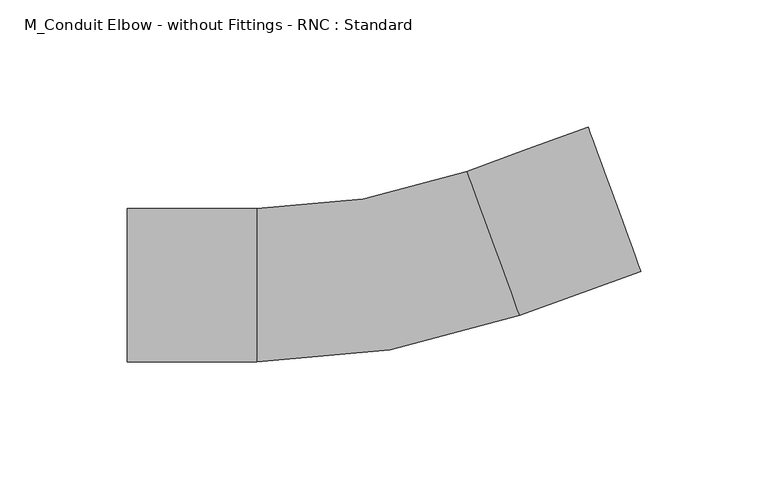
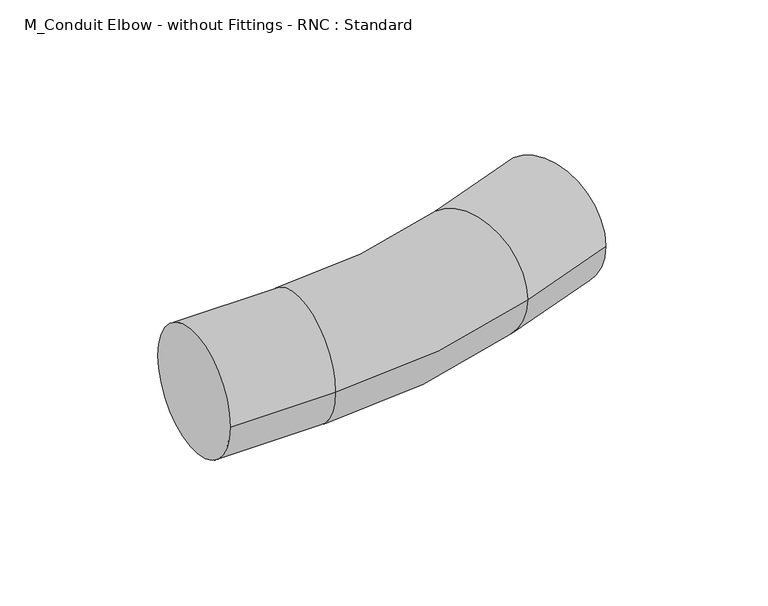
"""IFC4 building model written with IfcOpenShell, lengths in millimetres: cable carrier fitting geometry, M_Conduit Elbow - without Fittings - RNC : Standard."""

from ifc_helpers import new_model, si_unit, point, frame, origin, place, context, project, spatial, circle_curve, ellipse_curve, trimmed, source, transform, mapped, element, save
from ifc_brep_helpers import plane_surface, cylinder_surface, revolved_surface, advanced_brep


def m_conduit_elbow_without_fittings_rnc_standard_5fbefaed(model_context):
    return source(origin(), model_context, "Body", "AdvancedBrep", [
        advanced_brep(
        [(-98.6657222, -30.1625, 0.0), (-98.6657222, 30.1625, 0.0), (-47.8657222, -30.1625, 0.0), (-47.8657222, 30.1625, 0.0), (34.6628834, 44.7145198, 0.0), (55.2952485, -11.9724375, 0.0), (103.0316336, 5.4021858, 0.0), (82.3992685, 62.0891431, 0.0)],
        [
            (0, 1, circle_curve(frame((-98.6657222, 0.0, 0.0), z_axis=(-1.0, 0.0, 0.0), x_axis=(0.0, 1.0, 0.0)), 30.1625)),
            (1, 0, circle_curve(frame((-98.6657222, 0.0, 0.0), z_axis=(-1.0, 0.0, 0.0), x_axis=(0.0, 1.0, 0.0)), 30.1625)),
            (0, 2),
            (2, 3, circle_curve(frame((-47.8657222, 0.0, 0.0), z_axis=(-1.0, 0.0, 0.0), x_axis=(0.0, 1.0, 0.0)), 30.1625)),
            (3, 1),
            (3, 2, circle_curve(frame((-47.8657222, 0.0, 0.0), z_axis=(-1.0, 0.0, 0.0), x_axis=(0.0, 1.0, 0.0)), 30.1625)),
            (4, 3, circle_curve(frame((-47.8657222, 271.46, 0.0), z_axis=(0.0, 0.0, -1.0), x_axis=(0.0, -1.0, 0.0)), 241.2975)),
            (2, 5, circle_curve(frame((-47.8657222, 271.46, 0.0), z_axis=(0.0, 0.0, 1.0), x_axis=(0.0, -1.0, 0.0)), 301.6225)),
            (5, 4, circle_curve(frame((44.9790659, 16.3710412, 0.0), z_axis=(-0.9396926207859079, -0.3420201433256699, 0.0), x_axis=(-0.3420201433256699, 0.9396926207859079, 0.0)), 30.1625)),
            (4, 5, circle_curve(frame((44.9790659, 16.3710412, 0.0), z_axis=(-0.9396926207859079, -0.3420201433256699, 0.0), x_axis=(-0.3420201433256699, 0.9396926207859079, 0.0)), 30.1625)),
            (6, 7, circle_curve(frame((92.7154511, 33.7456644, 0.0), z_axis=(0.939692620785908, 0.34202014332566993, 0.0), x_axis=(-0.34202014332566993, 0.939692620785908, 0.0)), 30.1625)),
            (7, 6, circle_curve(frame((92.7154511, 33.7456644, 0.0), z_axis=(0.939692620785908, 0.34202014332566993, 0.0), x_axis=(-0.34202014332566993, 0.939692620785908, 0.0)), 30.1625)),
            (5, 6),
            (7, 4),
        ],
        [
            plane_surface(frame((-98.6657222, 0.0, 0.0), z_axis=(-1.0, 0.0, 0.0), x_axis=(0.0, 0.0, 1.0))),
            cylinder_surface(frame((-98.6657222, 0.0, 0.0), z_axis=(-1.0, 0.0, 0.0), x_axis=(0.0, 1.0, 0.0)), 30.1625),
            revolved_surface(trimmed(ellipse_curve(frame((-47.8657222, 0.0, 0.0), z_axis=(-1.0, 0.0, 0.0), x_axis=(0.0, 1.0, 0.0)), 30.1625, 30.1625), [point((-47.8657222, -30.1625, 0.0))], [point((-47.8657222, 30.1625, 0.0))], True, "CARTESIAN"), (-47.8657222, 271.46, 0.0), (0.0, 0.0, 1.0)),
            revolved_surface(trimmed(ellipse_curve(frame((-47.8657222, 0.0, 0.0), z_axis=(-1.0, 0.0, 0.0), x_axis=(0.0, 1.0, 0.0)), 30.1625, 30.1625), [point((-47.8657222, 30.1625, 0.0))], [point((-47.8657222, -30.1625, 0.0))], True, "CARTESIAN"), (-47.8657222, 271.46, 0.0), (0.0, 0.0, 1.0)),
            plane_surface(frame((92.7154511, 33.7456644, 0.0), z_axis=(0.939692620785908, 0.34202014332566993, 0.0), x_axis=(0.0, 0.0, 1.0))),
            cylinder_surface(frame((44.9790659, 16.3710412, 0.0), z_axis=(-0.939692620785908, -0.34202014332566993, 0.0), x_axis=(-0.34202014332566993, 0.939692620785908, 0.0)), 30.1625),
        ],
        [
            (0, [[1, 2]]),
            (1, [[-1, 3, 4, 5]]),
            (1, [[-2, -5, 6, -3]]),
            (2, [[7, -4, 8, 9]]),
            (3, [[-8, -6, -7, 10]]),
            (4, [[11, 12]]),
            (5, [[-9, 13, -12, 14]]),
            (5, [[-10, -14, -11, -13]]),
        ],
    ),
    ])


if __name__ == "__main__":
    model = new_model("IFC4")
    model_context = context("Model", 3, world=origin())
    ifc_project = project(units=[si_unit("LENGTHUNIT", "METRE", prefix="MILLI")], contexts=[model_context])
    site = spatial("IfcSite", under=ifc_project)
    building = spatial("IfcBuilding", under=site)
    placement = place(None, origin())
    m_conduit_elbow_without_fittings_rnc_standard_shape = m_conduit_elbow_without_fittings_rnc_standard_5fbefaed(model_context)
    element("IfcCableCarrierFitting", 1, ObjectType="M_Conduit Elbow - without Fittings - RNC : Standard", at=placement, inside=building, context=model_context, shape_type="MappedRepresentation", body=[
        mapped(m_conduit_elbow_without_fittings_rnc_standard_shape, transform((0.0, 0.0, 0.0), x_axis=(1.0, 0.0, 0.0), y_axis=(0.0, 1.0, 0.0), z_axis=(0.0, 0.0, 1.0))),
    ])
    save(model, "model.ifc")
